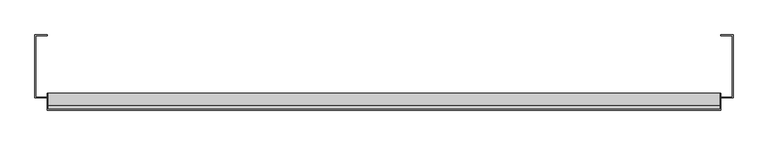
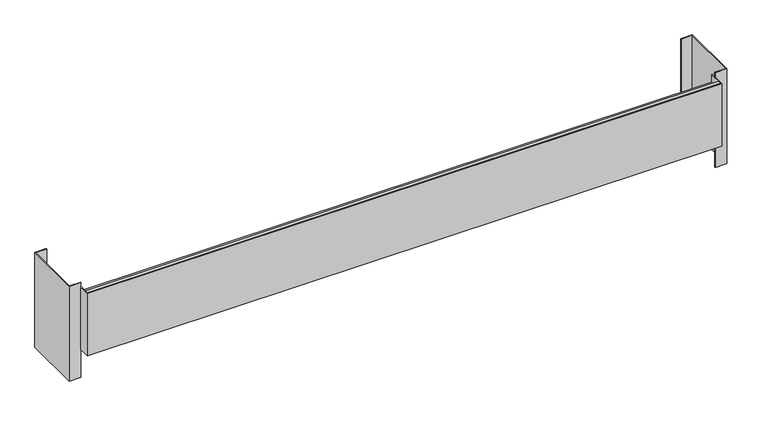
"""IFC4 building model written with IfcOpenShell, lengths in millimetres: furniture geometry."""

from ifc_helpers import new_model, si_unit, frame, origin, place, context, project, spatial, polyline, outline, extrude, source, transform, mapped, element, save


def furniture_3c95d147(model_context):
    return source(origin(), model_context, "Body", "SweptSolid", [
        extrude(outline(polyline([(-914.4, -126.20625), (-882.6500008, -126.20625), (-882.6500008, -127.79375), (-912.8125, -127.79375), (-912.8125, -289.7187621), (-882.6500008, -289.7187621), (-882.6500008, -291.3062621), (-914.4, -291.3062621), (-914.4, -126.20625)])), frame((0.0, 0.0, 241.33556), z_axis=(0.0, 0.0, 1.0), x_axis=(1.0, 0.0, 0.0)), (0.0, 0.0, 1.0), 279.4),
        extrude(outline(polyline([(882.6500121, -126.20625), (914.4, -126.20625), (914.4, -291.3062621), (882.6500121, -291.3062621), (882.6500121, -289.7187621), (912.8125, -289.7187621), (912.8125, -127.79375), (882.6500121, -127.79375), (882.6500121, -126.20625)])), frame((0.0, 0.0, 241.33556), z_axis=(0.0, 0.0, 1.0), x_axis=(1.0, 0.0, 0.0)), (0.0, 0.0, 1.0), 279.4),
        extrude(outline(polyline([(882.6500121, -278.6062561), (882.6500121, -323.05625), (-882.6500008, -323.05625), (-882.6500008, -278.6062561), (-881.0625008, -278.6062561), (-881.0625008, -321.46875), (881.0625121, -321.46875), (881.0625121, -278.6062561), (882.6500121, -278.6062561)])), frame((0.0, 0.0, 323.8855479), z_axis=(0.0, 0.0, 1.0), x_axis=(1.0, 0.0, 0.0)), (0.0, 0.0, 1.0), 184.1500242),
        extrude(outline(polyline([(881.0625121, -311.1182614), (881.0625121, -321.46875), (-881.0625008, -321.46875), (-881.0625008, -311.1182614), (881.0625121, -311.1182614)])), frame((0.0, 0.0, 498.5105721), z_axis=(0.0, 0.0, 1.0), x_axis=(1.0, 0.0, 0.0)), (0.0, 0.0, 1.0), 9.525),
        extrude(outline(polyline([(881.0625121, -278.6062561), (881.0625121, -321.46875), (-881.0625008, -321.46875), (-881.0625008, -278.6062561), (881.0625121, -278.6062561)])), frame((0.0, 0.0, 323.8855479), z_axis=(0.0, 0.0, 1.0), x_axis=(1.0, 0.0, 0.0)), (0.0, 0.0, 1.0), 161.9250363),
    ])


if __name__ == "__main__":
    model = new_model("IFC4")
    model_context = context("Model", 3, world=origin())
    ifc_project = project(units=[si_unit("LENGTHUNIT", "METRE", prefix="MILLI")], contexts=[model_context])
    site = spatial("IfcSite", under=ifc_project)
    building = spatial("IfcBuilding", under=site)
    placement = place(None, origin())
    furniture_shape = furniture_3c95d147(model_context)
    element("IfcFurniture", 1, ObjectType="HermanMiller_CoStruc_C2192_CFrameSupport : 11\"H x 24\"D x 72\"W", at=placement, inside=building, context=model_context, shape_type="MappedRepresentation", body=[
        mapped(furniture_shape, transform((0.0, 0.0, 0.0), x_axis=(1.0, 0.0, 0.0), y_axis=(0.0, 1.0, 0.0), z_axis=(0.0, 0.0, 1.0))),
    ])
    save(model, "model.ifc")
